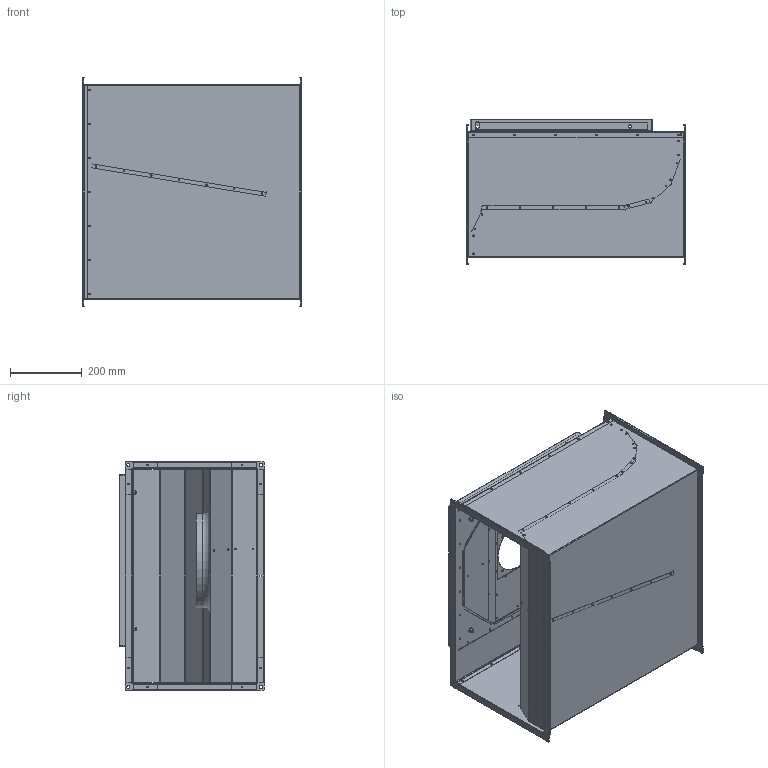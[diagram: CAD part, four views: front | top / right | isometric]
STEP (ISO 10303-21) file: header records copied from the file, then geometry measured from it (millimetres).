
FILE_DESCRIPTION (( 'STEP AP203' ), '1' );
FILE_NAME ('131361-00_KVR06035EC31.STEP', '2015-05-11T06:31:10', ( '' ), ( '' ), 'SwSTEP 2.0', 'SolidWorks 2012', '' );
FILE_SCHEMA (( 'CONFIG_CONTROL_DESIGN' ));
Length unit declared in the file: millimetre
Products named in the file (1): 131361-00_KVR06035EC31
Bounding box: 610 x 403.2 x 638.4 mm (x, y, z)
Surface area: 4074097.3 mm2 (no closed solid volume)
Topology: 0 solids, 83 shells, 933 faces, 3141 edges, 2228 vertices
Faces by surface type: cylinder 616, plane 299, torus 8, bspline 6, cone 4
Entity records: 35957 total; most frequent: CARTESIAN_POINT 7127, DIRECTION 6406, ORIENTED_EDGE 5026, EDGE_CURVE 3141, AXIS2_PLACEMENT_3D 2399, VERTEX_POINT 2228, VECTOR 1608, LINE 1608
